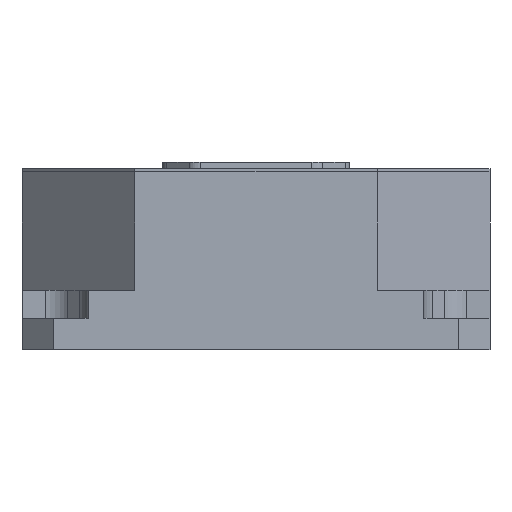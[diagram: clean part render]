
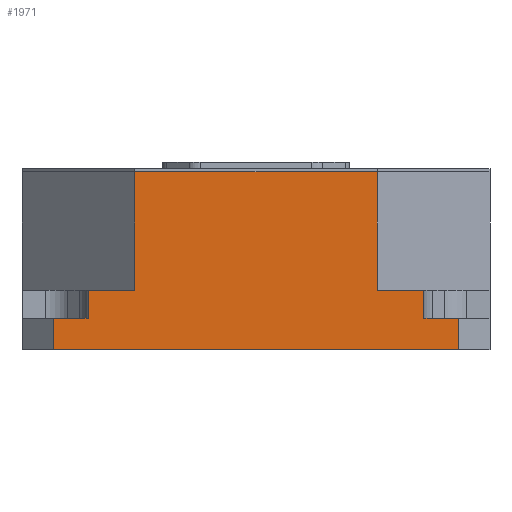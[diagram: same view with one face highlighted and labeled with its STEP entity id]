
A CAD part, front view. The second image highlights one B-rep face of the part: STEP entity #1971.
In plain terms, the highlighted planar face has unit normal (0, -1, 0).
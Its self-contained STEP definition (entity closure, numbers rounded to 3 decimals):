
#72 = CARTESIAN_POINT ( 'NONE',  ( -75., -75., 10. ) ) ;
#84 = VECTOR ( 'NONE', #3341, 1000. ) ;
#91 = CARTESIAN_POINT ( 'NONE',  ( -38.824, -75., 272.132 ) ) ;
#99 = VERTEX_POINT ( 'NONE', #1345 ) ;
#114 = VERTEX_POINT ( 'NONE', #3430 ) ;
#125 = LINE ( 'NONE', #3397, #2929 ) ;
#152 = EDGE_CURVE ( 'NONE', #3438, #3771, #1290, .T. ) ;
#223 = VECTOR ( 'NONE', #409, 1000. ) ;
#237 = EDGE_LOOP ( 'NONE', ( #3540, #2902, #904, #2229, #3408, #1278, #571, #576, #633, #3553, #1465, #1192 ) ) ;
#309 = DIRECTION ( 'NONE',  ( 0., 0., -1. ) ) ;
#316 = CARTESIAN_POINT ( 'NONE',  ( 53.824, -75., 19. ) ) ;
#409 = DIRECTION ( 'NONE',  ( 0., 0., -1. ) ) ;
#462 = LINE ( 'NONE', #3633, #2389 ) ;
#551 = DIRECTION ( 'NONE',  ( 0., 0., -1. ) ) ;
#571 = ORIENTED_EDGE ( 'NONE', *, *, #2881, .F. ) ;
#576 = ORIENTED_EDGE ( 'NONE', *, *, #1984, .F. ) ;
#603 = VECTOR ( 'NONE', #3371, 1000. ) ;
#628 = EDGE_CURVE ( 'NONE', #3247, #114, #1101, .T. ) ;
#633 = ORIENTED_EDGE ( 'NONE', *, *, #3353, .F. ) ;
#728 = VECTOR ( 'NONE', #1667, 1000. ) ;
#735 = VERTEX_POINT ( 'NONE', #1438 ) ;
#738 = VERTEX_POINT ( 'NONE', #3196 ) ;
#801 = LINE ( 'NONE', #3324, #2797 ) ;
#808 = VERTEX_POINT ( 'NONE', #3213 ) ;
#860 = VERTEX_POINT ( 'NONE', #1171 ) ;
#881 = CARTESIAN_POINT ( 'NONE',  ( -53.824, -75., 19. ) ) ;
#904 = ORIENTED_EDGE ( 'NONE', *, *, #1381, .T. ) ;
#941 = DIRECTION ( 'NONE',  ( 0., 0., -1. ) ) ;
#947 = EDGE_CURVE ( 'NONE', #3438, #860, #3138, .T. ) ;
#1101 = LINE ( 'NONE', #3702, #728 ) ;
#1137 = EDGE_CURVE ( 'NONE', #735, #3677, #125, .T. ) ;
#1161 = LINE ( 'NONE', #91, #3660 ) ;
#1171 = CARTESIAN_POINT ( 'NONE',  ( -53.824, -75., 10. ) ) ;
#1192 = ORIENTED_EDGE ( 'NONE', *, *, #152, .F. ) ;
#1278 = ORIENTED_EDGE ( 'NONE', *, *, #628, .F. ) ;
#1285 = DIRECTION ( 'NONE',  ( 0., 0., 1. ) ) ;
#1289 = CARTESIAN_POINT ( 'NONE',  ( -38.824, -75., 19. ) ) ;
#1290 = LINE ( 'NONE', #3391, #2143 ) ;
#1345 = CARTESIAN_POINT ( 'NONE',  ( 38.824, -75., 19. ) ) ;
#1381 = EDGE_CURVE ( 'NONE', #2867, #735, #2207, .T. ) ;
#1438 = CARTESIAN_POINT ( 'NONE',  ( -65., -75., 0. ) ) ;
#1465 = ORIENTED_EDGE ( 'NONE', *, *, #1592, .T. ) ;
#1489 = LINE ( 'NONE', #1883, #2930 ) ;
#1526 = CARTESIAN_POINT ( 'NONE',  ( 53.824, -75., 19. ) ) ;
#1579 = EDGE_CURVE ( 'NONE', #2867, #860, #2335, .T. ) ;
#1588 = VECTOR ( 'NONE', #309, 1000. ) ;
#1592 = EDGE_CURVE ( 'NONE', #808, #3771, #1161, .T. ) ;
#1600 = EDGE_CURVE ( 'NONE', #3677, #114, #3754, .T. ) ;
#1667 = DIRECTION ( 'NONE',  ( 1., 0., 0. ) ) ;
#1690 = EDGE_CURVE ( 'NONE', #808, #738, #1489, .T. ) ;
#1729 = FACE_OUTER_BOUND ( 'NONE', #237, .T. ) ;
#1754 = CARTESIAN_POINT ( 'NONE',  ( -65., -75., 10. ) ) ;
#1830 = CARTESIAN_POINT ( 'NONE',  ( 53.824, -75., 10. ) ) ;
#1831 = VERTEX_POINT ( 'NONE', #1526 ) ;
#1869 = CARTESIAN_POINT ( 'NONE',  ( 65., -75., 10. ) ) ;
#1883 = CARTESIAN_POINT ( 'NONE',  ( -38.824, -75., 57. ) ) ;
#1890 = LINE ( 'NONE', #316, #223 ) ;
#1938 = DIRECTION ( 'NONE',  ( 1., 0., 0. ) ) ;
#1971 = ADVANCED_FACE ( 'NONE', ( #1729 ), #2160, .F. ) ;
#1984 = EDGE_CURVE ( 'NONE', #99, #1831, #462, .T. ) ;
#2137 = DIRECTION ( 'NONE',  ( 1., 0., 0. ) ) ;
#2139 = DIRECTION ( 'NONE',  ( 0., 0., -1. ) ) ;
#2143 = VECTOR ( 'NONE', #1938, 1000. ) ;
#2160 = PLANE ( 'NONE',  #3441 ) ;
#2195 = DIRECTION ( 'NONE',  ( 1., 0., 0. ) ) ;
#2207 = LINE ( 'NONE', #1754, #3704 ) ;
#2229 = ORIENTED_EDGE ( 'NONE', *, *, #1137, .T. ) ;
#2265 = CARTESIAN_POINT ( 'NONE',  ( -53.824, -75., 19. ) ) ;
#2335 = LINE ( 'NONE', #3328, #84 ) ;
#2372 = CARTESIAN_POINT ( 'NONE',  ( 65., -75., 0. ) ) ;
#2389 = VECTOR ( 'NONE', #2137, 1000. ) ;
#2440 = DIRECTION ( 'NONE',  ( 1., 0., 0. ) ) ;
#2446 = DIRECTION ( 'NONE',  ( 0., 1., 0. ) ) ;
#2797 = VECTOR ( 'NONE', #2139, 1000. ) ;
#2867 = VERTEX_POINT ( 'NONE', #2952 ) ;
#2881 = EDGE_CURVE ( 'NONE', #1831, #3247, #1890, .T. ) ;
#2902 = ORIENTED_EDGE ( 'NONE', *, *, #1579, .F. ) ;
#2929 = VECTOR ( 'NONE', #2440, 1000. ) ;
#2930 = VECTOR ( 'NONE', #2195, 1000. ) ;
#2952 = CARTESIAN_POINT ( 'NONE',  ( -65., -75., 10. ) ) ;
#3138 = LINE ( 'NONE', #881, #1588 ) ;
#3196 = CARTESIAN_POINT ( 'NONE',  ( 38.824, -75., 57. ) ) ;
#3213 = CARTESIAN_POINT ( 'NONE',  ( -38.824, -75., 57. ) ) ;
#3247 = VERTEX_POINT ( 'NONE', #1830 ) ;
#3324 = CARTESIAN_POINT ( 'NONE',  ( 38.824, -75., 272.132 ) ) ;
#3328 = CARTESIAN_POINT ( 'NONE',  ( -75., -75., 10. ) ) ;
#3341 = DIRECTION ( 'NONE',  ( 1., 0., 0. ) ) ;
#3353 = EDGE_CURVE ( 'NONE', #738, #99, #801, .T. ) ;
#3371 = DIRECTION ( 'NONE',  ( 0., 0., 1. ) ) ;
#3391 = CARTESIAN_POINT ( 'NONE',  ( -38.824, -75., 19. ) ) ;
#3397 = CARTESIAN_POINT ( 'NONE',  ( -75., -75., 0. ) ) ;
#3408 = ORIENTED_EDGE ( 'NONE', *, *, #1600, .T. ) ;
#3430 = CARTESIAN_POINT ( 'NONE',  ( 65., -75., 10. ) ) ;
#3438 = VERTEX_POINT ( 'NONE', #2265 ) ;
#3441 = AXIS2_PLACEMENT_3D ( 'NONE', #72, #2446, #1285 ) ;
#3540 = ORIENTED_EDGE ( 'NONE', *, *, #947, .T. ) ;
#3553 = ORIENTED_EDGE ( 'NONE', *, *, #1690, .F. ) ;
#3633 = CARTESIAN_POINT ( 'NONE',  ( 38.824, -75., 19. ) ) ;
#3660 = VECTOR ( 'NONE', #941, 1000. ) ;
#3677 = VERTEX_POINT ( 'NONE', #2372 ) ;
#3702 = CARTESIAN_POINT ( 'NONE',  ( -75., -75., 10. ) ) ;
#3704 = VECTOR ( 'NONE', #551, 1000. ) ;
#3754 = LINE ( 'NONE', #1869, #603 ) ;
#3771 = VERTEX_POINT ( 'NONE', #1289 ) ;
